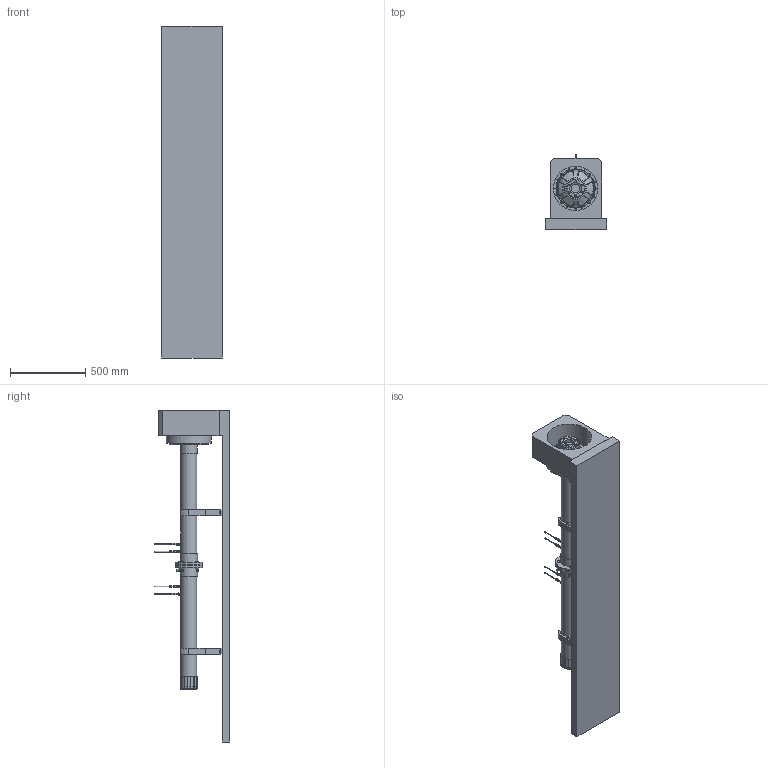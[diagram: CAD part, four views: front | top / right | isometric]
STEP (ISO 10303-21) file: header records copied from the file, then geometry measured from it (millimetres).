
FILE_DESCRIPTION(/* description */ (''),/* implementation_level */ '2;1');
FILE_NAME(/* name */ 'ACCOUSTIC ASSEMBLY.stp',/* time_stamp */ '2026-07-13T09:03:43+03:00',/* author */ ('USER'),/* organization */ (''),/* preprocessor_version */ 'ST-DEVELOPER v20',/* originating_system */ 'Autodesk Inventor 2025',/* authorisation */ '');
FILE_SCHEMA (('AUTOMOTIVE_DESIGN { 1 0 10303 214 3 1 1 }'));
Products named in the file (27): ACCOUSTIC ASSEMBLY; upstream pipe; 10 Inch; upstream pipe_1; specimen holder  flange; BASE; 1302N272_Oil-Resistant Buna-N O-Ring; sample; DIN 933 - M10  x 55; DIN 933 - M10  x 60; DIN 315 - M10; speaker flange; anaechoic end; MEMS2; MEMS microphone assembly; MEMS I2S I; INMP441 MEMS I2S MICROPHONE PCB; MSM261S4030; MSM261S4030_1; MSM261S4030_cover; Resistor 0402; C0402-T50-X7R; 2.1 x 5.5 Female Overmould; Jack 6.3; 2.1 x 5.5 Female insert; clamp 22; ISO 7049 - ST9.5 x 50 - C - Z
Assembly tree (40 placements, depth 6):
  ACCOUSTIC ASSEMBLY
    upstream pipe
    10 Inch
    upstream pipe_1
    specimen holder  flange  x2
    BASE
    1302N272_Oil-Resistant Buna-N O-Ring  x2
    sample
    DIN 933 - M10  x 55
    DIN 933 - M10  x 60  x3
    DIN 315 - M10  x4
    speaker flange
    anaechoic end
    MEMS2  x4
      MEMS microphone assembly
        MEMS I2S I
          INMP441 MEMS I2S MICROPHONE PCB
          MSM261S4030
            MSM261S4030_1
            MSM261S4030_cover
          Resistor 0402
          C0402-T50-X7R
      2.1 x 5.5 Female Overmould
      Jack 6.3
      2.1 x 5.5 Female insert
    clamp 22  x2
    ISO 7049 - ST9.5 x 50 - C - Z  x4
Bounding box: 400 x 498.25 x 2200 mm (x, y, z)
Volume: 64283491.8 mm3; surface area: 4858601.9 mm2
Topology: 210 solids, 210 shells, 4083 faces, 10002 edges, 6476 vertices
Faces by surface type: plane 1918, bspline 894, cylinder 817, torus 268, cone 148, sphere 38
Full cylindrical faces by diameter (mm): 1 x72, 1.2 x8, 1.5 x52, 5.5 x8, 5.667 x16, 6.1 x8, 6.3 x4, 6.4 x4, 6.41 x4, 6.5 x4, 8.3 x4, 8.376 x4, 9 x4, 9.067 x2, 9.188 x4, 9.5 x8, 10 x12, 10.5 x20, 10.75 x32, 11 x24, 11.333 x6, 12 x8, 14 x8, 15 x8, 15.4 x4, 56.667 x1, 61.637 x2, 65.037 x1, 92 x1, 95 x2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
Entity records: 50117 total; most frequent: CARTESIAN_POINT 16790, ORIENTED_EDGE 6738, DIRECTION 6110, EDGE_CURVE 3369, AXIS2_PLACEMENT_3D 2200, VERTEX_POINT 2198, LINE 1710, VECTOR 1710
